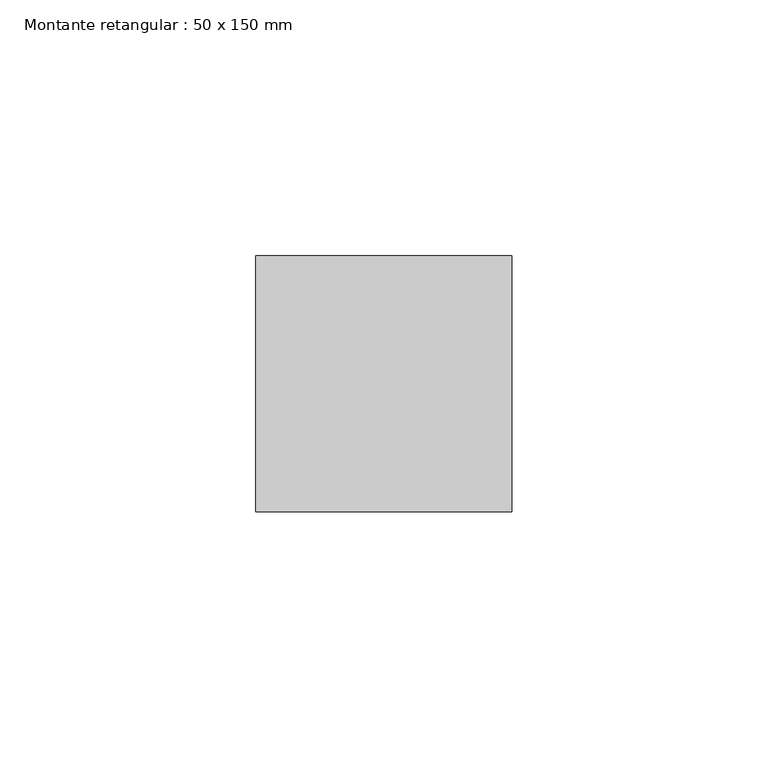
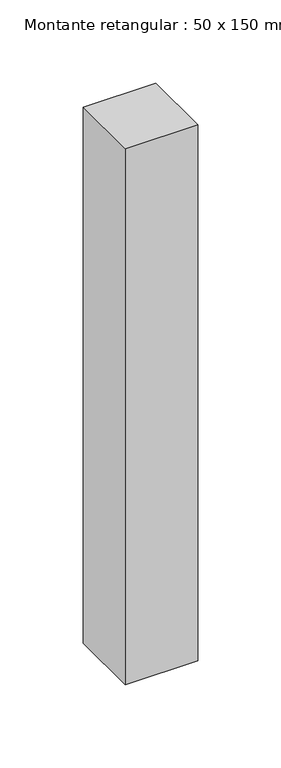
"""IFC4 building model written with IfcOpenShell, lengths in millimetres: member geometry, Montante retangular : 50 x 150 mm."""

from ifc_helpers import new_model, si_unit, frame, origin, place, context, project, spatial, polyline, outline, extrude, source, transform, mapped, element, save


def montante_retangular_50_x_150_mm_4dba9813(model_context):
    return source(origin(), model_context, "Body", "SweptSolid", [
        extrude(outline(polyline([(0.0, 25.0), (0.0, -25.0), (-50.0, -25.0), (-50.0, 25.0), (0.0, 25.0)])), frame((0.0, 0.0, -391.6666667), z_axis=(0.0, 0.0, 1.0), x_axis=(1.0, 0.0, 0.0)), (0.0, 0.0, 1.0), 391.6666667),
    ])


if __name__ == "__main__":
    model = new_model("IFC4")
    model_context = context("Model", 3, world=origin())
    ifc_project = project(units=[si_unit("LENGTHUNIT", "METRE", prefix="MILLI")], contexts=[model_context])
    site = spatial("IfcSite", under=ifc_project)
    building = spatial("IfcBuilding", under=site)
    placement = place(None, origin())
    montante_retangular_50_x_150_mm_shape = montante_retangular_50_x_150_mm_4dba9813(model_context)
    element("IfcMember", 1, ObjectType="Montante retangular : 50 x 150 mm", at=placement, inside=building, context=model_context, shape_type="MappedRepresentation", body=[
        mapped(montante_retangular_50_x_150_mm_shape, transform((0.0, 0.0, 0.0), x_axis=(1.0, 0.0, 0.0), y_axis=(0.0, 1.0, 0.0), z_axis=(0.0, 0.0, 1.0))),
    ])
    save(model, "model.ifc")
